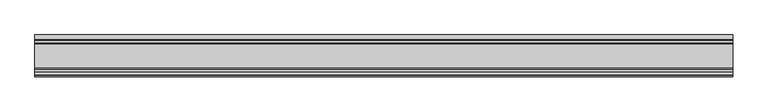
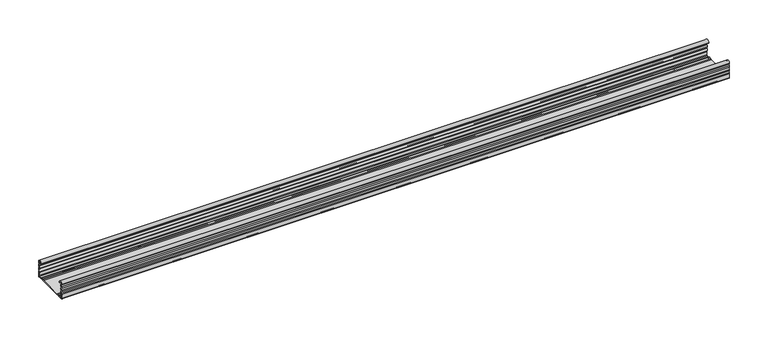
"""IFC4 building model written with IfcOpenShell, lengths in millimetres: proxy geometry, Несущий КНАУФ-профиль ПП 60х27 : Несущий КНАУФ-профиль ПП 60х27."""

import ifcopenshell
import ifcopenshell.guid

model = None  # the IFC model being written
_history = None  # IfcOwnerHistory: only IFC2X3 demands one
_inside = {}  # id of a spatial element -> (the spatial element, [elements in it])
_under = {}  # id of a project, library or spatial element -> (it, [spatial elements below it])
_declared = {}  # id of a project -> (the project, [libraries it declares])
_typed = {}  # id of a type object -> (the type object, [elements of that type])
_made_of = {}  # id of a material, layer set ... -> (it, [elements and type objects made of it])


def new_model(schema):
    """Start an empty IFC model of exactly this schema.

    Asked for "IFC4X3", IfcOpenShell would pick the latest addendum, in which some entities
    have other attributes; the version numbers below select the first issue.
    IFC2X3 requires an IfcOwnerHistory on every rooted entity: one is made here for all.
    """
    global model, _history
    if schema == "IFC4X3":
        model = ifcopenshell.file(schema_version=(4, 3, 0, 0))
    else:
        model = ifcopenshell.file(schema=schema)
    _inside.clear()
    _under.clear()
    _declared.clear()
    _typed.clear()
    _made_of.clear()
    _history = None
    if model.schema == "IFC2X3":
        org = make("IfcOrganization", Name="unknown")
        user = make(
            "IfcPersonAndOrganization",
            ThePerson=make("IfcPerson", FamilyName="unknown"),
            TheOrganization=org,
        )
        app = make(
            "IfcApplication",
            ApplicationDeveloper=org,
            Version="unknown",
            ApplicationFullName="unknown",
            ApplicationIdentifier="unknown",
        )
        _history = make(
            "IfcOwnerHistory",
            OwningUser=user,
            OwningApplication=app,
            ChangeAction="ADDED",
            CreationDate=0,
        )
    return model


def make(cls, **values):
    """One entity of the class cls with the attributes given. An attribute that is None is left unset."""
    return model.create_entity(
        cls, **{name: value for name, value in values.items() if value is not None}
    )


def rooted(cls, **values):
    """An entity with a GlobalId (a new one), such as an element, a storey or a relation."""
    return make(cls, GlobalId=ifcopenshell.guid.new(), OwnerHistory=_history, **values)


def si_unit(unit_type, name, prefix=None):
    """IfcSIUnit, for example si_unit("LENGTHUNIT", "METRE", prefix="MILLI")."""
    return make("IfcSIUnit", UnitType=unit_type, Prefix=prefix, Name=name)


def assignment(units):
    """IfcUnitAssignment: the units of a project."""
    return None if units is None else make("IfcUnitAssignment", Units=units)


def point(xyz):
    """IfcCartesianPoint."""
    return None if xyz is None else make("IfcCartesianPoint", Coordinates=xyz)


def direction(xyz):
    """IfcDirection."""
    return None if xyz is None else make("IfcDirection", DirectionRatios=xyz)


def frame(location, z_axis=None, x_axis=None):
    """IfcAxis2Placement3D, a coordinate frame: its origin and axes. An axis left out is left unset."""
    return make(
        "IfcAxis2Placement3D",
        Location=point(location),
        Axis=direction(z_axis),
        RefDirection=direction(x_axis),
    )


def frame_2d(location, x_axis=None):
    """IfcAxis2Placement2D, a coordinate frame in the plane: its origin and x axis."""
    return make(
        "IfcAxis2Placement2D", Location=point(location), RefDirection=direction(x_axis)
    )


def origin():
    """The frame at (0, 0, 0) with its axes left unset."""
    return frame((0.0, 0.0, 0.0))


def place(relative_to, where):
    """IfcLocalPlacement: puts the frame where relative to a parent placement (None: the world)."""
    return make(
        "IfcLocalPlacement", PlacementRelTo=relative_to, RelativePlacement=where
    )


def context(
    kind, dimensions, precision=None, world=None, true_north=None, identifier=None
):
    """IfcGeometricRepresentationContext, for example the 3D "Model" context."""
    return make(
        "IfcGeometricRepresentationContext",
        ContextIdentifier=identifier,
        ContextType=kind,
        CoordinateSpaceDimension=dimensions,
        Precision=precision,
        WorldCoordinateSystem=world,
        TrueNorth=true_north,
    )


def project(units=None, contexts=None):
    """IfcProject with its units and contexts."""
    return rooted(
        "IfcProject",
        Name="project",
        RepresentationContexts=contexts,
        UnitsInContext=assignment(units),
    )


def spatial(cls, under=None, at=None, **own):
    """A site, building, storey or space (cls), placed at a placement, below another one or the project."""
    s = rooted(cls, ObjectPlacement=at, **own)
    if under is not None:
        _under.setdefault(under.id(), (under, []))[1].append(s)
    return s


def polyline(points):
    """IfcPolyline through the points."""
    return make("IfcPolyline", Points=[point(p) for p in points])


def circle_curve(where, radius):
    """IfcCircle in the frame where."""
    return make("IfcCircle", Position=where, Radius=radius)


def trimmed(basis, trim1, trim2, sense, master):
    """IfcTrimmedCurve: the piece of a basis curve between two trims."""
    return make(
        "IfcTrimmedCurve",
        BasisCurve=basis,
        Trim1=trim1,
        Trim2=trim2,
        SenseAgreement=sense,
        MasterRepresentation=master,
    )


def segment(curve, same_sense, transition):
    """IfcCompositeCurveSegment."""
    return make(
        "IfcCompositeCurveSegment",
        Transition=transition,
        SameSense=same_sense,
        ParentCurve=curve,
    )


def composite_curve(segments, self_intersect=None):
    """IfcCompositeCurve: segments joined end to end."""
    return make("IfcCompositeCurve", Segments=segments, SelfIntersect=self_intersect)


def outline(outer, holes=None, kind="AREA"):
    """IfcArbitraryClosedProfileDef: a profile drawn as a closed curve; with holes, ...WithVoids."""
    if holes is None:
        return make("IfcArbitraryClosedProfileDef", ProfileType=kind, OuterCurve=outer)
    return make(
        "IfcArbitraryProfileDefWithVoids",
        ProfileType=kind,
        OuterCurve=outer,
        InnerCurves=holes,
    )


def extrude(swept, where, along, depth):
    """IfcExtrudedAreaSolid: the profile swept, set in the frame where, extruded along a direction by depth."""
    return make(
        "IfcExtrudedAreaSolid",
        SweptArea=swept,
        Position=where,
        ExtrudedDirection=direction(along),
        Depth=depth,
    )


def shape(context_of_items, identifier, shape_type, items):
    """IfcShapeRepresentation: the items that make up one representation, for example the "Body"."""
    return make(
        "IfcShapeRepresentation",
        ContextOfItems=context_of_items,
        RepresentationIdentifier=identifier,
        RepresentationType=shape_type,
        Items=items,
    )


def source(mapping_origin, context_of_items, identifier, shape_type, items):
    """IfcRepresentationMap: a shape defined once, which mapped items show again and again."""
    return make(
        "IfcRepresentationMap",
        MappingOrigin=mapping_origin,
        MappedRepresentation=shape(context_of_items, identifier, shape_type, items),
    )


def transform(
    local_origin,
    x_axis=None,
    y_axis=None,
    z_axis=None,
    scale=None,
    scale2=None,
    scale3=None,
    uniform=True,
):
    """IfcCartesianTransformationOperator3D, or its non-uniform kind. x_axis, y_axis, z_axis: its Axis1, 2, 3."""
    if uniform:
        return make(
            "IfcCartesianTransformationOperator3D",
            Axis1=direction(x_axis),
            Axis2=direction(y_axis),
            LocalOrigin=point(local_origin),
            Scale=scale,
            Axis3=direction(z_axis),
        )
    return make(
        "IfcCartesianTransformationOperator3DnonUniform",
        Axis1=direction(x_axis),
        Axis2=direction(y_axis),
        LocalOrigin=point(local_origin),
        Scale=scale,
        Axis3=direction(z_axis),
        Scale2=scale2,
        Scale3=scale3,
    )


def mapped(mapping_source, mapping_target):
    """IfcMappedItem: shows the shape of a source again, moved by a transform."""
    return make(
        "IfcMappedItem", MappingSource=mapping_source, MappingTarget=mapping_target
    )


def made_of(thing, what):
    """Note that an element or type object is made of a material, layer set ...; save() writes the relation."""
    if what is not None:
        _made_of.setdefault(what.id(), (what, []))[1].append(thing)
    return thing


def element(
    cls,
    number,
    at=None,
    inside=None,
    cuts=None,
    type_object=None,
    material=None,
    context=None,
    identifier="Body",
    shape_type=None,
    held_by="IfcProductDefinitionShape",
    body=None,
    shapes=None,
    **own,
):
    """One element of the class cls, such as IfcWall. Its Tag is "e" and its number.

    at: its placement. inside: the storey or other place that contains it. cuts: it is an
    opening in that element (IfcRelVoidsElement). A single representation is given by context,
    identifier, shape_type and body (its items); several are given by shapes. held_by: the class
    of the entity that holds the representations. save() writes the other relations.
    """
    e = rooted(cls, Tag="e%d" % number, ObjectPlacement=at, **own)
    if body is not None:
        shapes = [shape(context, identifier, shape_type, body)]
    if shapes is not None:
        e.Representation = make(held_by, Representations=shapes)
    if inside is not None:
        _inside.setdefault(inside.id(), (inside, []))[1].append(e)
    if cuts is not None:
        rooted(
            "IfcRelVoidsElement", RelatingBuildingElement=cuts, RelatedOpeningElement=e
        )
    if type_object is not None:
        _typed.setdefault(type_object.id(), (type_object, []))[1].append(e)
    return made_of(e, material)


def aggregate(whole, parts):
    """IfcRelAggregates: a whole, such as a stair, and the parts it consists of."""
    return rooted("IfcRelAggregates", RelatingObject=whole, RelatedObjects=parts)


def save(model, path):
    """Write the relations noted so far, then the file.

    IfcRelAggregates (storeys below a building ...), IfcRelContainedInSpatialStructure (elements
    in a storey), IfcRelDefinesByType, IfcRelAssociatesMaterial and IfcRelDeclares: one each for
    every whole, place, type object, material and project.
    """
    for whole, parts in _under.values():
        aggregate(whole, parts)
    for where, things in _inside.values():
        rooted(
            "IfcRelContainedInSpatialStructure",
            RelatedElements=things,
            RelatingStructure=where,
        )
    for kind, things in _typed.values():
        rooted("IfcRelDefinesByType", RelatedObjects=things, RelatingType=kind)
    for what, things in _made_of.values():
        rooted("IfcRelAssociatesMaterial", RelatedObjects=things, RelatingMaterial=what)
    for by, libraries in _declared.values():
        rooted("IfcRelDeclares", RelatingContext=by, RelatedDefinitions=libraries)
    model.write(path)


def generic_models_cbb1e458(model_context):
    return source(origin(), model_context, "Body", "SweptSolid", [
        extrude(outline(composite_curve([segment(trimmed(circle_curve(frame_2d((30.75, 21.1911057)), 1.95), [point((29.424, 22.6208693))], [point((29.424, 19.7613421))], True, "CARTESIAN"), True, "CONTINUOUS"), segment(trimmed(circle_curve(frame_2d((28.2, 18.4415603)), 1.8), [point((29.424, 19.7613421))], [point((29.6853338, 17.4248088))], False, "CARTESIAN"), True, "CONTINUOUS"), segment(trimmed(circle_curve(frame_2d((30.75, 15.7911057)), 1.95), [point((29.6853338, 17.4248088))], [point((29.6853338, 14.1574026))], True, "CARTESIAN"), True, "CONTINUOUS"), segment(trimmed(circle_curve(frame_2d((28.2, 13.1406511)), 1.8), [point((29.6853338, 14.1574026))], [point((29.424, 11.8208693))], False, "CARTESIAN"), True, "CONTINUOUS"), segment(trimmed(circle_curve(frame_2d((30.75, 10.3911057)), 1.95), [point((29.424, 11.8208693))], [point((29.424, 8.9613421))], True, "CARTESIAN"), True, "CONTINUOUS"), segment(trimmed(circle_curve(frame_2d((28.2, 7.6415603)), 1.8), [point((29.424, 8.9613421))], [point((30.0, 7.6415603))], False, "CARTESIAN"), True, "CONTINUOUS"), segment(polyline([(30.0, 7.6415603), (30.0, 1.2)]), True, "CONTINUOUS"), segment(trimmed(circle_curve(frame_2d((28.8, 1.2)), 1.2), [point((30.0, 1.2))], [point((28.8, 0.0))], False, "CARTESIAN"), True, "CONTINUOUS"), segment(polyline([(28.8, 0.0), (23.4819519, 0.0)]), True, "CONTINUOUS"), segment(trimmed(circle_curve(frame_2d((23.4819519, 1.8)), 1.8), [point((23.4819519, 0.0))], [point((22.1621701, 0.576))], False, "CARTESIAN"), True, "CONTINUOUS"), segment(trimmed(circle_curve(frame_2d((20.7324065, -0.75)), 1.95), [point((22.1621701, 0.576))], [point((19.3026429, 0.576))], True, "CARTESIAN"), True, "CONTINUOUS"), segment(trimmed(circle_curve(frame_2d((17.9828611, 1.8)), 1.8), [point((19.3026429, 0.576))], [point((17.9828611, 0.0))], False, "CARTESIAN"), True, "CONTINUOUS"), segment(polyline([(17.9828611, 0.0), (-17.9828611, 0.0)]), True, "CONTINUOUS"), segment(trimmed(circle_curve(frame_2d((-17.9828611, 1.8)), 1.8), [point((-17.9828611, 0.0))], [point((-19.3026429, 0.576))], False, "CARTESIAN"), True, "CONTINUOUS"), segment(trimmed(circle_curve(frame_2d((-20.7324065, -0.75)), 1.95), [point((-19.3026429, 0.576))], [point((-22.1621701, 0.576))], True, "CARTESIAN"), True, "CONTINUOUS"), segment(trimmed(circle_curve(frame_2d((-23.4819519, 1.8)), 1.8), [point((-22.1621701, 0.576))], [point((-23.4819519, 0.0))], False, "CARTESIAN"), True, "CONTINUOUS"), segment(polyline([(-23.4819519, 0.0), (-28.8, 0.0)]), True, "CONTINUOUS"), segment(trimmed(circle_curve(frame_2d((-28.8, 1.2)), 1.2), [point((-28.8, 0.0))], [point((-30.0, 1.2))], False, "CARTESIAN"), True, "CONTINUOUS"), segment(polyline([(-30.0, 1.2), (-30.0, 7.6415603)]), True, "CONTINUOUS"), segment(trimmed(circle_curve(frame_2d((-28.2, 7.6415603)), 1.8), [point((-30.0, 7.6415603))], [point((-29.424, 8.9613421))], False, "CARTESIAN"), True, "CONTINUOUS"), segment(trimmed(circle_curve(frame_2d((-30.75, 10.3911057)), 1.95), [point((-29.424, 8.9613421))], [point((-29.424, 11.8208693))], True, "CARTESIAN"), True, "CONTINUOUS"), segment(trimmed(circle_curve(frame_2d((-28.2, 13.1406511)), 1.8), [point((-29.424, 11.8208693))], [point((-29.6853338, 14.1574026))], False, "CARTESIAN"), True, "CONTINUOUS"), segment(trimmed(circle_curve(frame_2d((-30.75, 15.7911057)), 1.95), [point((-29.6853338, 14.1574026))], [point((-29.6853338, 17.4248088))], True, "CARTESIAN"), True, "CONTINUOUS"), segment(trimmed(circle_curve(frame_2d((-28.2, 18.4415603)), 1.8), [point((-29.6853338, 17.4248088))], [point((-29.424, 19.7613421))], False, "CARTESIAN"), True, "CONTINUOUS"), segment(trimmed(circle_curve(frame_2d((-30.75, 21.1911057)), 1.95), [point((-29.424, 19.7613421))], [point((-29.424, 22.6208693))], True, "CARTESIAN"), True, "CONTINUOUS"), segment(trimmed(circle_curve(frame_2d((-28.2, 23.9406511)), 1.8), [point((-29.424, 22.6208693))], [point((-29.9990651, 23.8826448))], False, "CARTESIAN"), True, "CONTINUOUS"), segment(trimmed(circle_curve(frame_2d((-26.8817099, 23.8826448)), 3.1173552), [point((-29.9990651, 23.8826448))], [point((-23.7643548, 23.8826448))], False, "CARTESIAN"), True, "CONTINUOUS"), segment(polyline([(-23.7643548, 23.8826448), (-23.7643548, 23.0407729), (-24.9643548, 23.0407729), (-24.9643548, 23.8826448)]), True, "CONTINUOUS"), segment(trimmed(circle_curve(frame_2d((-26.8817099, 23.8826448)), 1.9173552), [point((-24.9643548, 23.8826448))], [point((-28.7514388, 24.3073386))], True, "CARTESIAN"), True, "CONTINUOUS"), segment(trimmed(circle_curve(frame_2d((-27.7762784, 24.0858388)), 1.0), [point((-28.7514388, 24.3073386))], [point((-28.4928378, 23.3883128))], True, "CARTESIAN"), True, "CONTINUOUS"), segment(trimmed(circle_curve(frame_2d((-30.75, 21.1911057)), 3.15), [point((-28.4928378, 23.3883128))], [point((-28.3578316, 19.1417081))], False, "CARTESIAN"), True, "CONTINUOUS"), segment(trimmed(circle_curve(frame_2d((-27.5984131, 18.4911057)), 1.0), [point((-28.3578316, 19.1417081))], [point((-28.3578316, 17.8405033))], True, "CARTESIAN"), True, "CONTINUOUS"), segment(trimmed(circle_curve(frame_2d((-30.75, 15.7911057)), 3.15), [point((-28.3578316, 17.8405033))], [point((-28.3578316, 13.7417081))], False, "CARTESIAN"), True, "CONTINUOUS"), segment(trimmed(circle_curve(frame_2d((-27.5984131, 13.0911057)), 1.0), [point((-28.3578316, 13.7417081))], [point((-28.3578316, 12.4405033))], True, "CARTESIAN"), True, "CONTINUOUS"), segment(trimmed(circle_curve(frame_2d((-30.75, 10.3911057)), 3.15), [point((-28.3578316, 12.4405033))], [point((-28.3339806, 8.3698808))], False, "CARTESIAN"), True, "CONTINUOUS"), segment(trimmed(circle_curve(frame_2d((-26.8, 7.0865634)), 2.0), [point((-28.3339806, 8.3698808))], [point((-28.8, 7.0865634))], True, "CARTESIAN"), True, "CONTINUOUS"), segment(polyline([(-28.8, 7.0865634), (-28.8, 2.4)]), True, "CONTINUOUS"), segment(trimmed(circle_curve(frame_2d((-27.6, 2.4)), 1.2), [point((-28.8, 2.4))], [point((-27.6, 1.2))], True, "CARTESIAN"), True, "CONTINUOUS"), segment(polyline([(-27.6, 1.2), (-24.382064, 1.2)]), True, "CONTINUOUS"), segment(trimmed(circle_curve(frame_2d((-24.382064, 4.2)), 3.0), [point((-24.382064, 1.2))], [point((-22.6017433, 1.7853659))], True, "CARTESIAN"), True, "CONTINUOUS"), segment(trimmed(circle_curve(frame_2d((-20.7324065, -0.75)), 3.15), [point((-22.6017433, 1.7853659))], [point((-18.8630697, 1.7853659))], False, "CARTESIAN"), True, "CONTINUOUS"), segment(trimmed(circle_curve(frame_2d((-17.082749, 4.2)), 3.0), [point((-18.8630697, 1.7853659))], [point((-17.082749, 1.2))], True, "CARTESIAN"), True, "CONTINUOUS"), segment(polyline([(-17.082749, 1.2), (17.082749, 1.2)]), True, "CONTINUOUS"), segment(trimmed(circle_curve(frame_2d((17.082749, 4.2)), 3.0), [point((17.082749, 1.2))], [point((18.8630697, 1.7853659))], True, "CARTESIAN"), True, "CONTINUOUS"), segment(trimmed(circle_curve(frame_2d((20.7324065, -0.75)), 3.15), [point((18.8630697, 1.7853659))], [point((22.6017433, 1.7853659))], False, "CARTESIAN"), True, "CONTINUOUS"), segment(trimmed(circle_curve(frame_2d((24.382064, 4.2)), 3.0), [point((22.6017433, 1.7853659))], [point((24.382064, 1.2))], True, "CARTESIAN"), True, "CONTINUOUS"), segment(polyline([(24.382064, 1.2), (27.6182196, 1.2)]), True, "CONTINUOUS"), segment(trimmed(circle_curve(frame_2d((27.6182196, 2.3817804)), 1.1817804), [point((27.6182196, 1.2))], [point((28.8, 2.3817804))], True, "CARTESIAN"), True, "CONTINUOUS"), segment(polyline([(28.8, 2.3817804), (28.8, 7.0865634)]), True, "CONTINUOUS"), segment(trimmed(circle_curve(frame_2d((26.8, 7.0865634)), 2.0), [point((28.8, 7.0865634))], [point((28.3339806, 8.3698808))], True, "CARTESIAN"), True, "CONTINUOUS"), segment(trimmed(circle_curve(frame_2d((30.75, 10.3911057)), 3.15), [point((28.3339806, 8.3698808))], [point((28.3578316, 12.4405033))], False, "CARTESIAN"), True, "CONTINUOUS"), segment(trimmed(circle_curve(frame_2d((27.5984131, 13.0911057)), 1.0), [point((28.3578316, 12.4405033))], [point((28.3578316, 13.7417081))], True, "CARTESIAN"), True, "CONTINUOUS"), segment(trimmed(circle_curve(frame_2d((30.75, 15.7911057)), 3.15), [point((28.3578316, 13.7417081))], [point((28.3578316, 17.8405033))], False, "CARTESIAN"), True, "CONTINUOUS"), segment(trimmed(circle_curve(frame_2d((27.5984131, 18.4911057)), 1.0), [point((28.3578316, 17.8405033))], [point((28.3578316, 19.1417081))], True, "CARTESIAN"), True, "CONTINUOUS"), segment(trimmed(circle_curve(frame_2d((30.75, 21.1911057)), 3.15), [point((28.3578316, 19.1417081))], [point((28.4928378, 23.3883128))], False, "CARTESIAN"), True, "CONTINUOUS"), segment(trimmed(circle_curve(frame_2d((27.7762784, 24.0858388)), 1.0), [point((28.4928378, 23.3883128))], [point((28.7514388, 24.3073386))], True, "CARTESIAN"), True, "CONTINUOUS"), segment(trimmed(circle_curve(frame_2d((26.8817099, 23.8826448)), 1.9173552), [point((28.7514388, 24.3073386))], [point((24.9643548, 23.8826448))], True, "CARTESIAN"), True, "CONTINUOUS"), segment(polyline([(24.9643548, 23.8826448), (24.9643548, 23.0407729), (23.7643548, 23.0407729), (23.7643548, 23.8826448)]), True, "CONTINUOUS"), segment(trimmed(circle_curve(frame_2d((26.8817099, 23.8826448)), 3.1173552), [point((23.7643548, 23.8826448))], [point((29.9990651, 23.8826448))], False, "CARTESIAN"), True, "CONTINUOUS"), segment(trimmed(circle_curve(frame_2d((28.2, 23.9406511)), 1.8), [point((29.9990651, 23.8826448))], [point((29.424, 22.6208693))], False, "CARTESIAN"), True, "CONTINUOUS")], self_intersect=False)), frame((-500.0, 0.0, 0.0), z_axis=(1.0, 0.0, 0.0), x_axis=(0.0, 1.0, 0.0)), (0.0, 0.0, 1.0), 1000.0),
    ])


if __name__ == "__main__":
    model = new_model("IFC4")
    model_context = context("Model", 3, world=origin())
    ifc_project = project(units=[si_unit("LENGTHUNIT", "METRE", prefix="MILLI")], contexts=[model_context])
    site = spatial("IfcSite", under=ifc_project)
    building = spatial("IfcBuilding", under=site)
    placement = place(None, origin())
    generic_models_shape = generic_models_cbb1e458(model_context)
    element("IfcBuildingElementProxy", 1, Name="Несущий КНАУФ-профиль ПП 60х27 : Несущий КНАУФ-профиль ПП 60х27", ObjectType="Несущий КНАУФ-профиль ПП 60х27 : Несущий КНАУФ-профиль ПП 60х27", at=placement, inside=building, context=model_context, shape_type="MappedRepresentation", body=[
        mapped(generic_models_shape, transform((0.0, 0.0, 0.0), x_axis=(1.0, 0.0, 0.0), y_axis=(0.0, 1.0, 0.0), z_axis=(0.0, 0.0, 1.0))),
    ])
    save(model, "model.ifc")
